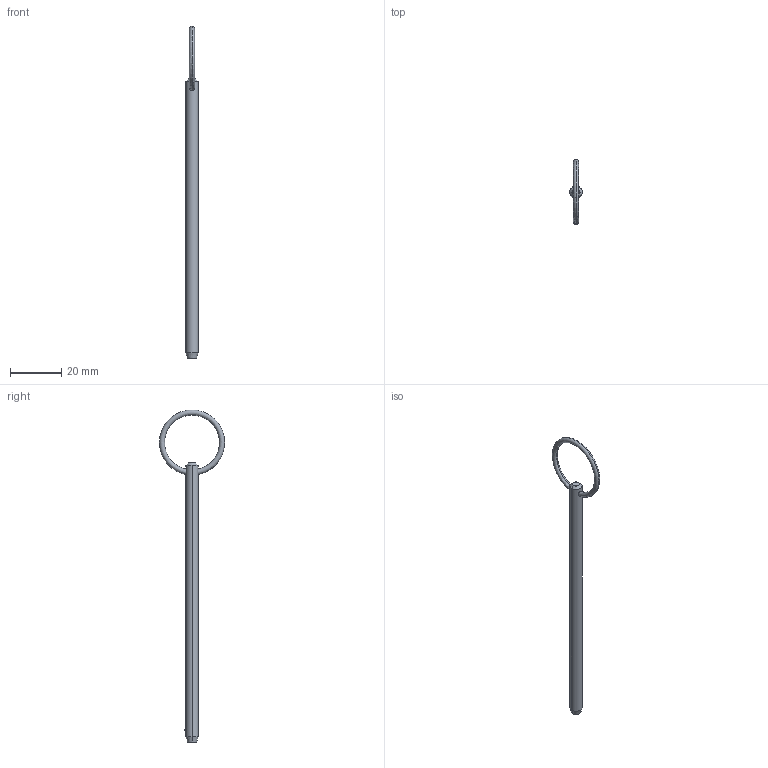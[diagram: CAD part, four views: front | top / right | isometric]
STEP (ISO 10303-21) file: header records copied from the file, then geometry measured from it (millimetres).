
FILE_DESCRIPTION (( 'STEP AP203' ), '1' );
FILE_NAME ('P1250.018-390.step', '2019-07-29T19:37:36', ( '' ), ( '' ), 'SwSTEP 2.0', 'SolidWorks 2017', '' );
FILE_SCHEMA (( 'CONFIG_CONTROL_DESIGN' ));
Length unit declared in the file: millimetre
Products named in the file (1): P1250.018-390
Bounding box: 4.76 x 25.4 x 129.58 mm (x, y, z)
Volume: 2140.8 mm3; surface area: 2072 mm2
Topology: 1 solids, 1 shells, 12 faces, 28 edges, 17 vertices
Faces by surface type: cone 4, torus 2, sphere 2, cylinder 2, plane 2
Entity records: 471 total; most frequent: CARTESIAN_POINT 138, DIRECTION 56, ORIENTED_EDGE 48, AXIS2_PLACEMENT_3D 25, EDGE_CURVE 24, EDGE_LOOP 15, VERTEX_POINT 15, ADVANCED_FACE 12
